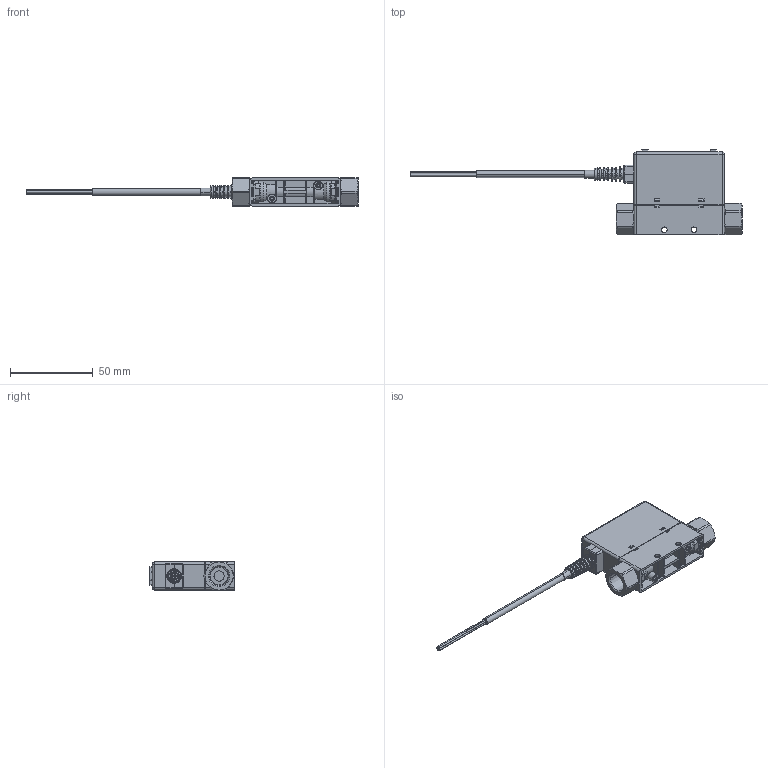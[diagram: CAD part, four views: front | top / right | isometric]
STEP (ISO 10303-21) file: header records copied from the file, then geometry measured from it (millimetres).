
FILE_DESCRIPTION(('STEP AP214'),'1');
FILE_NAME('.stp','2026-02-04T03:22:18',(' '),(' '),'Spatial InterOp 3D',' ',' ');
FILE_SCHEMA(('AUTOMOTIVE_DESIGN { 1 0 10303 214 1 1 1 1 }'));
Length unit declared in the file: millimetre
Products named in the file (4): MFPS01-※※※-※※R※; 1; 2; 3
Assembly tree (3 placements, depth 2):
  MFPS01-※※※-※※R※
    1
    2
    3
Bounding box: 201.2 x 51.85 x 17.03 mm (x, y, z)
Volume: 47821.5 mm3; surface area: 18747.8 mm2
Topology: 2 solids, 214 shells, 1052 faces, 3545 edges, 2734 vertices
Faces by surface type: plane 596, cylinder 278, cone 86, torus 48, bspline 36, sphere 8
Entity records: 50777 total; most frequent: CARTESIAN_POINT 11664, DIRECTION 6357, ORIENTED_EDGE 5810, EDGE_CURVE 3545, VERTEX_POINT 2734, LINE 2265, VECTOR 2265, AXIS2_PLACEMENT_3D 2046
